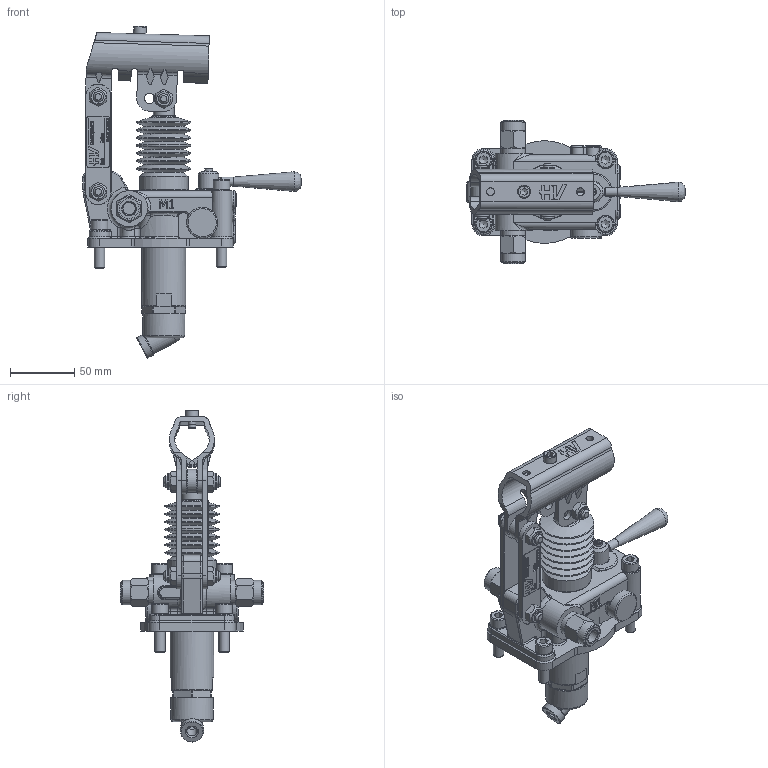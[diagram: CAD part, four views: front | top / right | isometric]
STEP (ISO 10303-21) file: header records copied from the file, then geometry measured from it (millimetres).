
FILE_DESCRIPTION((''),'2;1');
FILE_NAME('G:\HV_HYDRAULIC\AZIENDA_HV_HYDRAULIC\ARCHIVIO_DISEGNI\5_PRODOTTI_FINITI\1_POMPE_MANUALI\6059_PMDVB_6\6059.0103_PMDVB_6_cc-byB-s_(HV)\6059.0103.stp','2024-03-07T11:17:11',('christian.scardovi'),(''),'Autodesk Inventor 2013','Autodesk Inventor 2013','');
FILE_SCHEMA(('AUTOMOTIVE_DESIGN { 1 0 10303 214 1 1 1 1 }'));
Length unit declared in the file: millimetre
Products named in the file (1): 6059.0103
Bounding box: 170 x 112 x 258.54 mm (x, y, z)
Surface area: 139721.3 mm2
Topology: 2 solids, 3 shells, 1737 faces, 4374 edges, 2760 vertices
Faces by surface type: plane 822, cylinder 373, cone 208, bspline 185, torus 136, sphere 13
Full cylindrical faces by diameter (mm): 1.2 x4, 3 x7, 4 x4, 4.917 x13, 5 x9, 6 x8, 6.5 x3, 6.917 x2, 7 x3, 8 x15, 9 x4, 9.2 x1, 10 x14, 10.5 x2, 10.917 x3, 11.05 x6, 11.445 x2, 12 x8, 13 x4, 13.2 x1, 14 x4, 14.95 x2, 15 x2, 15.5 x2, 15.9 x2, 16 x5, 18 x5, 18.1 x1, 19 x4, 22 x1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
Entity records: 53831 total; most frequent: CARTESIAN_POINT 14324, ORIENTED_EDGE 7702, DIRECTION 7318, EDGE_CURVE 3851, AXIS2_PLACEMENT_3D 2661, VERTEX_POINT 2606, EDGE_LOOP 2258, VECTOR 1996
